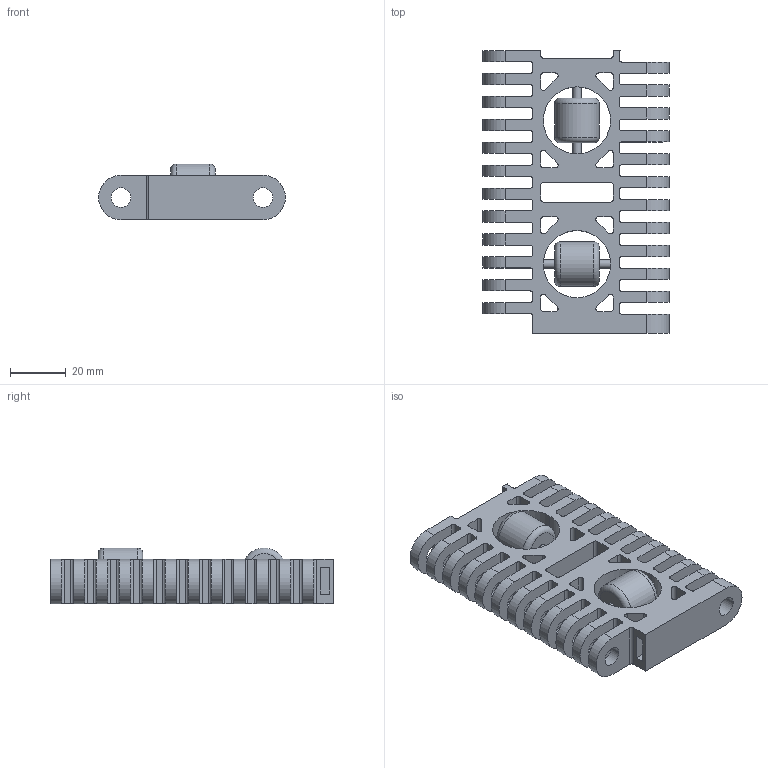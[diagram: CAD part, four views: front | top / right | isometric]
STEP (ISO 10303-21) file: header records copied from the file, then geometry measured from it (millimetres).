
FILE_DESCRIPTION(('CATIA V5 STEP Exchange'),'2;1');
FILE_NAME('C:\Users\ALI OZGUN\Desktop\alhan\957_956G01K08_50mm.stp','2017-08-25T12:00:52+00:00',('none'),('none'),'CATIA Version 5 Release 21 GA (IN-10)','CATIA V5 STEP AP203','none');
FILE_SCHEMA(('CONFIG_CONTROL_DESIGN'));
Length unit declared in the file: millimetre
Products named in the file (1): 957_956G01K08_50mm
Bounding box: 66.8 x 101.2 x 20 mm (x, y, z)
Volume: 55483 mm3; surface area: 33063.3 mm2
Topology: 5 solids, 5 shells, 296 faces, 849 edges, 564 vertices
Faces by surface type: cylinder 165, plane 123, torus 8
Entity records: 9086 total; most frequent: ORIENTED_EDGE 1698, CARTESIAN_POINT 1597, DIRECTION 1215, EDGE_CURVE 849, VERTEX_POINT 564, AXIS2_PLACEMENT_3D 530, VECTOR 503, LINE 503
